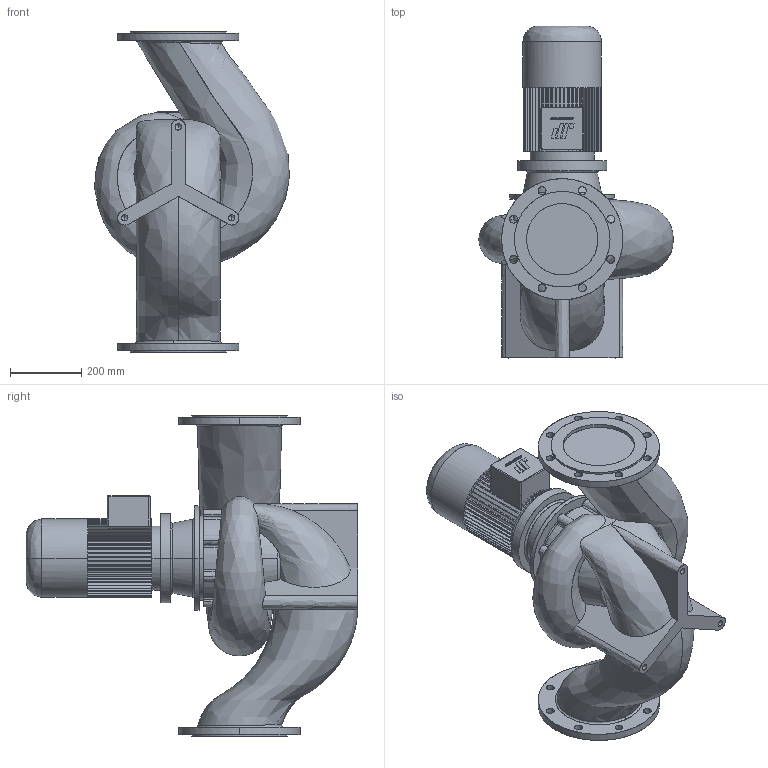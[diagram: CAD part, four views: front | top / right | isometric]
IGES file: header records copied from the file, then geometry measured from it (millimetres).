
Start section: CombiLine
Global section: file name: CLB_200-160_IEC112M_ND10.igs; native system:  By UGS Corp.; preprocessor: XPlus GENERIC/IGES 3.0; author: Stageplaats; organization: Johnson Pump Water B.V.; date: 20070717.145104; units: millimetre
Bounding box: 546 x 930.5 x 900 mm (x, y, z)
Surface area: 2299579.3 mm2 (no closed solid volume)
Topology: 0 solids, 0 shells, 561 faces, 3413 edges, 3407 vertices
Faces by surface type: bspline 561
